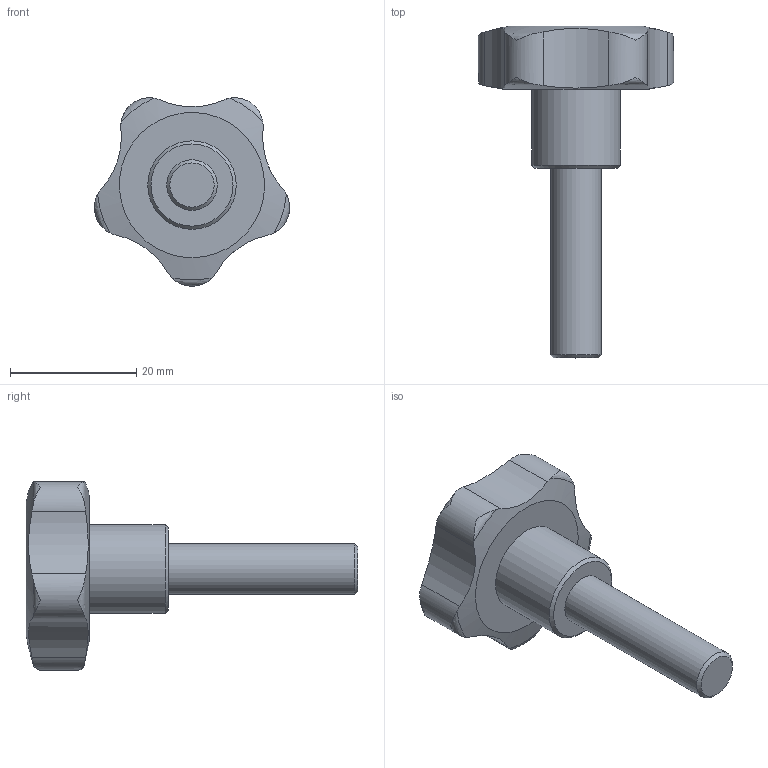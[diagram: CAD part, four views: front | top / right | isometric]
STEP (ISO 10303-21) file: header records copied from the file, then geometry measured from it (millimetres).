
FILE_DESCRIPTION( ( 'STEP AP203' ), '1' );
FILE_NAME( 'C:/Temp/Ganter_Step_05_03_2020/data/2_2/gn_5337_4/gn_5337_4_s/Star knob GN 5337.4-32-M8-30.stp', '2020-03-05T12:09:44', ( 'License CC BY-ND 4.0' ), ( 'CADENAS' ), ' ', 'PARTsolutions', ' ' );
FILE_SCHEMA( ( 'CONFIG_CONTROL_DESIGN' ) );
Length unit declared in the file: millimetre
Products named in the file (1): _Star knob GN 5337.4-32-M8-30
Bounding box: 30.87 x 52.5 x 29.8 mm (x, y, z)
Volume: 9322.6 mm3; surface area: 3389.9 mm2
Topology: 1 solids, 2 shells, 34 faces, 90 edges, 61 vertices
Faces by surface type: cylinder 14, torus 10, plane 5, cone 3, bspline 1, sphere 1
Full cylindrical faces by diameter (mm): 7 x1, 7.2 x1, 8 x1, 14 x1
Entity records: 1439 total; most frequent: CARTESIAN_POINT 674, ORIENTED_EDGE 154, DIRECTION 122, EDGE_CURVE 77, VERTEX_POINT 58, AXIS2_PLACEMENT_3D 56, EDGE_LOOP 46, B_SPLINE_CURVE_WITH_KNOTS 45
